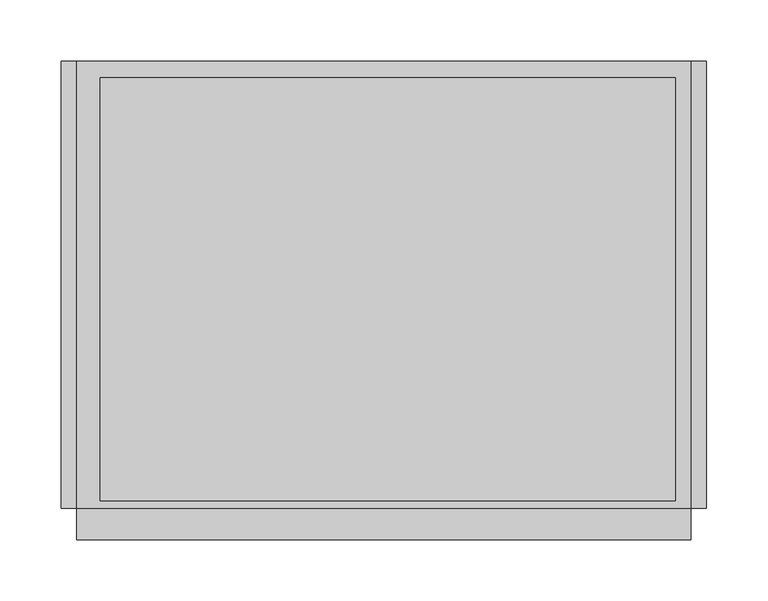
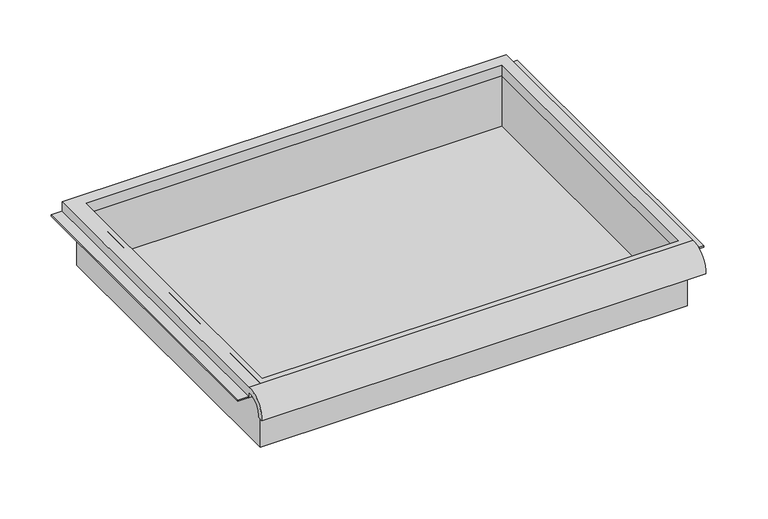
"""IFC4 building model written with IfcOpenShell, lengths in millimetres: furniture geometry."""

import ifcopenshell
import ifcopenshell.guid

model = None  # the IFC model being written
_history = None  # IfcOwnerHistory: only IFC2X3 demands one
_inside = {}  # id of a spatial element -> (the spatial element, [elements in it])
_under = {}  # id of a project, library or spatial element -> (it, [spatial elements below it])
_declared = {}  # id of a project -> (the project, [libraries it declares])
_typed = {}  # id of a type object -> (the type object, [elements of that type])
_made_of = {}  # id of a material, layer set ... -> (it, [elements and type objects made of it])


def new_model(schema):
    """Start an empty IFC model of exactly this schema.

    Asked for "IFC4X3", IfcOpenShell would pick the latest addendum, in which some entities
    have other attributes; the version numbers below select the first issue.
    IFC2X3 requires an IfcOwnerHistory on every rooted entity: one is made here for all.
    """
    global model, _history
    if schema == "IFC4X3":
        model = ifcopenshell.file(schema_version=(4, 3, 0, 0))
    else:
        model = ifcopenshell.file(schema=schema)
    _inside.clear()
    _under.clear()
    _declared.clear()
    _typed.clear()
    _made_of.clear()
    _history = None
    if model.schema == "IFC2X3":
        org = make("IfcOrganization", Name="unknown")
        user = make(
            "IfcPersonAndOrganization",
            ThePerson=make("IfcPerson", FamilyName="unknown"),
            TheOrganization=org,
        )
        app = make(
            "IfcApplication",
            ApplicationDeveloper=org,
            Version="unknown",
            ApplicationFullName="unknown",
            ApplicationIdentifier="unknown",
        )
        _history = make(
            "IfcOwnerHistory",
            OwningUser=user,
            OwningApplication=app,
            ChangeAction="ADDED",
            CreationDate=0,
        )
    return model


def make(cls, **values):
    """One entity of the class cls with the attributes given. An attribute that is None is left unset."""
    return model.create_entity(
        cls, **{name: value for name, value in values.items() if value is not None}
    )


def rooted(cls, **values):
    """An entity with a GlobalId (a new one), such as an element, a storey or a relation."""
    return make(cls, GlobalId=ifcopenshell.guid.new(), OwnerHistory=_history, **values)


def si_unit(unit_type, name, prefix=None):
    """IfcSIUnit, for example si_unit("LENGTHUNIT", "METRE", prefix="MILLI")."""
    return make("IfcSIUnit", UnitType=unit_type, Prefix=prefix, Name=name)


def assignment(units):
    """IfcUnitAssignment: the units of a project."""
    return None if units is None else make("IfcUnitAssignment", Units=units)


def point(xyz):
    """IfcCartesianPoint."""
    return None if xyz is None else make("IfcCartesianPoint", Coordinates=xyz)


def direction(xyz):
    """IfcDirection."""
    return None if xyz is None else make("IfcDirection", DirectionRatios=xyz)


def frame(location, z_axis=None, x_axis=None):
    """IfcAxis2Placement3D, a coordinate frame: its origin and axes. An axis left out is left unset."""
    return make(
        "IfcAxis2Placement3D",
        Location=point(location),
        Axis=direction(z_axis),
        RefDirection=direction(x_axis),
    )


def origin():
    """The frame at (0, 0, 0) with its axes left unset."""
    return frame((0.0, 0.0, 0.0))


def place(relative_to, where):
    """IfcLocalPlacement: puts the frame where relative to a parent placement (None: the world)."""
    return make(
        "IfcLocalPlacement", PlacementRelTo=relative_to, RelativePlacement=where
    )


def context(
    kind, dimensions, precision=None, world=None, true_north=None, identifier=None
):
    """IfcGeometricRepresentationContext, for example the 3D "Model" context."""
    return make(
        "IfcGeometricRepresentationContext",
        ContextIdentifier=identifier,
        ContextType=kind,
        CoordinateSpaceDimension=dimensions,
        Precision=precision,
        WorldCoordinateSystem=world,
        TrueNorth=true_north,
    )


def project(units=None, contexts=None):
    """IfcProject with its units and contexts."""
    return rooted(
        "IfcProject",
        Name="project",
        RepresentationContexts=contexts,
        UnitsInContext=assignment(units),
    )


def spatial(cls, under=None, at=None, **own):
    """A site, building, storey or space (cls), placed at a placement, below another one or the project."""
    s = rooted(cls, ObjectPlacement=at, **own)
    if under is not None:
        _under.setdefault(under.id(), (under, []))[1].append(s)
    return s


def polyline(points):
    """IfcPolyline through the points."""
    return make("IfcPolyline", Points=[point(p) for p in points])


def circle_curve(where, radius):
    """IfcCircle in the frame where."""
    return make("IfcCircle", Position=where, Radius=radius)


def faces_of(points, faces, orient=None, outer=None):
    """IfcFace entities. A face is a list of loops; a loop is a list of indices into points, from 0.

    orient and outer hold one flag for each loop. By default every Orientation is true, the
    first loop of a face is its IfcFaceOuterBound and the others are IfcFaceBound.
    """
    made = []
    for i, loops in enumerate(faces):
        bounds = []
        for j, loop in enumerate(loops):
            is_outer = j == 0 if outer is None else outer[i][j]
            bounds.append(
                make(
                    "IfcFaceOuterBound" if is_outer else "IfcFaceBound",
                    Bound=make("IfcPolyLoop", Polygon=[points[k] for k in loop]),
                    Orientation=True if orient is None else orient[i][j],
                )
            )
        made.append(make("IfcFace", Bounds=bounds))
    return made


def faceted_brep(points, faces, orient=None, outer=None, voids=None):
    """IfcFacetedBrep: a solid bounded by flat faces; with voids (closed shells), ...WithVoids."""
    shared = [point(p) for p in points]
    hull = make("IfcClosedShell", CfsFaces=faces_of(shared, faces, orient, outer))
    if voids is None:
        return make("IfcFacetedBrep", Outer=hull)
    return make(
        "IfcFacetedBrepWithVoids",
        Outer=hull,
        Voids=[
            make(cls, CfsFaces=faces_of(shared, fs, o, b)) for cls, fs, o, b in voids
        ],
    )


def shape(context_of_items, identifier, shape_type, items):
    """IfcShapeRepresentation: the items that make up one representation, for example the "Body"."""
    return make(
        "IfcShapeRepresentation",
        ContextOfItems=context_of_items,
        RepresentationIdentifier=identifier,
        RepresentationType=shape_type,
        Items=items,
    )


def source(mapping_origin, context_of_items, identifier, shape_type, items):
    """IfcRepresentationMap: a shape defined once, which mapped items show again and again."""
    return make(
        "IfcRepresentationMap",
        MappingOrigin=mapping_origin,
        MappedRepresentation=shape(context_of_items, identifier, shape_type, items),
    )


def transform(
    local_origin,
    x_axis=None,
    y_axis=None,
    z_axis=None,
    scale=None,
    scale2=None,
    scale3=None,
    uniform=True,
):
    """IfcCartesianTransformationOperator3D, or its non-uniform kind. x_axis, y_axis, z_axis: its Axis1, 2, 3."""
    if uniform:
        return make(
            "IfcCartesianTransformationOperator3D",
            Axis1=direction(x_axis),
            Axis2=direction(y_axis),
            LocalOrigin=point(local_origin),
            Scale=scale,
            Axis3=direction(z_axis),
        )
    return make(
        "IfcCartesianTransformationOperator3DnonUniform",
        Axis1=direction(x_axis),
        Axis2=direction(y_axis),
        LocalOrigin=point(local_origin),
        Scale=scale,
        Axis3=direction(z_axis),
        Scale2=scale2,
        Scale3=scale3,
    )


def mapped(mapping_source, mapping_target):
    """IfcMappedItem: shows the shape of a source again, moved by a transform."""
    return make(
        "IfcMappedItem", MappingSource=mapping_source, MappingTarget=mapping_target
    )


def made_of(thing, what):
    """Note that an element or type object is made of a material, layer set ...; save() writes the relation."""
    if what is not None:
        _made_of.setdefault(what.id(), (what, []))[1].append(thing)
    return thing


def element(
    cls,
    number,
    at=None,
    inside=None,
    cuts=None,
    type_object=None,
    material=None,
    context=None,
    identifier="Body",
    shape_type=None,
    held_by="IfcProductDefinitionShape",
    body=None,
    shapes=None,
    **own,
):
    """One element of the class cls, such as IfcWall. Its Tag is "e" and its number.

    at: its placement. inside: the storey or other place that contains it. cuts: it is an
    opening in that element (IfcRelVoidsElement). A single representation is given by context,
    identifier, shape_type and body (its items); several are given by shapes. held_by: the class
    of the entity that holds the representations. save() writes the other relations.
    """
    e = rooted(cls, Tag="e%d" % number, ObjectPlacement=at, **own)
    if body is not None:
        shapes = [shape(context, identifier, shape_type, body)]
    if shapes is not None:
        e.Representation = make(held_by, Representations=shapes)
    if inside is not None:
        _inside.setdefault(inside.id(), (inside, []))[1].append(e)
    if cuts is not None:
        rooted(
            "IfcRelVoidsElement", RelatingBuildingElement=cuts, RelatedOpeningElement=e
        )
    if type_object is not None:
        _typed.setdefault(type_object.id(), (type_object, []))[1].append(e)
    return made_of(e, material)


def aggregate(whole, parts):
    """IfcRelAggregates: a whole, such as a stair, and the parts it consists of."""
    return rooted("IfcRelAggregates", RelatingObject=whole, RelatedObjects=parts)


def save(model, path):
    """Write the relations noted so far, then the file.

    IfcRelAggregates (storeys below a building ...), IfcRelContainedInSpatialStructure (elements
    in a storey), IfcRelDefinesByType, IfcRelAssociatesMaterial and IfcRelDeclares: one each for
    every whole, place, type object, material and project.
    """
    for whole, parts in _under.values():
        aggregate(whole, parts)
    for where, things in _inside.values():
        rooted(
            "IfcRelContainedInSpatialStructure",
            RelatedElements=things,
            RelatingStructure=where,
        )
    for kind, things in _typed.values():
        rooted("IfcRelDefinesByType", RelatedObjects=things, RelatingType=kind)
    for what, things in _made_of.values():
        rooted("IfcRelAssociatesMaterial", RelatedObjects=things, RelatingMaterial=what)
    for by, libraries in _declared.values():
        rooted("IfcRelDeclares", RelatingContext=by, RelatedDefinitions=libraries)
    model.write(path)


def plane_surface(at):
    """IfcPlane: the flat surface through the origin of the frame at, square to its z axis."""
    return make("IfcPlane", Position=at)


def cylinder_surface(at, radius):
    """IfcCylindricalSurface: all points at the distance radius from the z axis of the frame at."""
    return make("IfcCylindricalSurface", Position=at, Radius=radius)


def revolved_surface(curve, axis_point, axis_direction):
    """IfcSurfaceOfRevolution: the curve turned about the line through axis_point along axis_direction."""
    return make(
        "IfcSurfaceOfRevolution",
        SweptCurve=make("IfcArbitraryOpenProfileDef", ProfileType="CURVE", Curve=curve),
        AxisPosition=make("IfcAxis1Placement", Location=point(axis_point), Axis=direction(axis_direction)),
    )


def advanced_brep(points, edges, surfaces, faces):
    """IfcAdvancedBrep: a solid bounded by faces that lie on surfaces and meet in shared edges.

    An edge is (start, end): straight between two places in points (the first is 0);
    or (start, end, curve); or (start, end, curve, False) where it runs against its curve.
    A face is (place in surfaces, loops), or (place, loops, False) where it looks against
    its surface's normal. A loop lists edges by number (the first is 1), with a minus sign
    where the edge is run from its end to its start. The first loop is the outer one.
    """
    corners = [point(p) for p in points]
    vertices = [make("IfcVertexPoint", VertexGeometry=c) for c in corners]
    made = []
    for start, end, *more in edges:
        made.append(
            make(
                "IfcEdgeCurve",
                EdgeStart=vertices[start],
                EdgeEnd=vertices[end],
                EdgeGeometry=more[0] if more else make("IfcPolyline", Points=[corners[start], corners[end]]),
                SameSense=more[1] if len(more) > 1 else True,
            )
        )
    hull = []
    for where, loops, *sense in faces:
        bounds = []
        for j, loop in enumerate(loops):
            ring = [make("IfcOrientedEdge", EdgeElement=made[abs(k) - 1], Orientation=k > 0) for k in loop]
            bounds.append(
                make(
                    "IfcFaceOuterBound" if j == 0 else "IfcFaceBound",
                    Bound=make("IfcEdgeLoop", EdgeList=ring),
                    Orientation=True,
                )
            )
        hull.append(make("IfcAdvancedFace", Bounds=bounds, FaceSurface=surfaces[where], SameSense=sense[0] if sense else True))
    return make("IfcAdvancedBrep", Outer=make("IfcClosedShell", CfsFaces=hull))


def furniture_30494bcf(model_context):
    return source(origin(), model_context, "Body", "SolidModel", [
        advanced_brep(
        [(263.7474999, -195.297482, 586.5824118), (263.7474999, -188.9125, 586.5824118), (263.7474999, -169.8625, 604.843885), (263.7474999, -169.8625, 598.4938846), (263.7474999, 195.2625, 598.4938846), (263.7474999, 195.2625, 611.193885), (263.7474999, -169.8625, 611.193885), (-237.9025001, -195.297482, 586.5824118), (-237.9025001, -169.8625, 611.193885), (-237.9025001, 195.2625, 611.193885), (-237.9025001, 195.2625, 598.4938846), (-237.9025001, -169.8625, 598.4938846), (-237.9025001, -169.8625, 604.843885), (-237.9025001, -188.9125, 586.5824118), (251.0474878, 181.9275, 598.4938846), (-218.8095642, 181.9275, 598.4938846), (-218.8095642, -163.5125, 598.4938846), (251.0474878, -163.5125, 598.4938846), (-218.8095642, 181.9275, 611.193885), (251.0474878, 181.9275, 611.193885), (251.0474878, -163.5125, 611.193885), (-218.8095642, -163.5125, 611.193885)],
        [
            (0, 1),
            (1, 2, circle_curve(frame((263.7474999, -172.3404634, 588.3618222), z_axis=(-1.0, 0.0, 0.0), x_axis=(0.0, 1.0, 0.0)), 16.6672942)),
            (2, 3),
            (3, 4),
            (4, 5),
            (5, 6),
            (6, 0, circle_curve(frame((263.7474999, -172.4601678, 588.4297122), z_axis=(1.0, 0.0, 0.0), x_axis=(0.0, 1.0, 0.0)), 22.9119061)),
            (7, 8, circle_curve(frame((-237.9025001, -172.4601678, 588.4297122), z_axis=(-1.0, 0.0, 0.0), x_axis=(0.0, 1.0, 0.0)), 22.9119061)),
            (8, 9),
            (9, 10),
            (10, 11),
            (11, 12),
            (12, 13, circle_curve(frame((-237.9025001, -172.3404634, 588.3618222), z_axis=(1.0, 0.0, 0.0), x_axis=(0.0, 1.0, 0.0)), 16.6672942)),
            (13, 7),
            (0, 7),
            (13, 1),
            (12, 2),
            (11, 3),
            (10, 4),
            (14, 15),
            (15, 16),
            (16, 17),
            (17, 14),
            (9, 5),
            (8, 6),
            (18, 19),
            (19, 20),
            (20, 21),
            (21, 18),
            (14, 19),
            (18, 15),
            (21, 16),
            (20, 17),
        ],
        [
            plane_surface(frame((263.7474999, -195.297482, 586.5824118), z_axis=(1.0, 0.0, 0.0), x_axis=(0.0, 1.0, 0.0))),
            plane_surface(frame((-237.9025001, -195.297482, 586.5824118), z_axis=(-1.0, 0.0, 0.0), x_axis=(0.0, -1.0, 0.0))),
            plane_surface(frame((263.7474999, -195.297482, 586.5824118), z_axis=(0.0, 0.0, -1.0), x_axis=(-1.0, 0.0, 0.0))),
            revolved_surface(polyline([(-237.9025001, -155.67316920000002, 588.3618222), (263.7474999, -155.67316920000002, 588.3618222)]), (-237.9025001, -172.3404634, 588.3618222), (-1.0, 0.0, 0.0)),
            plane_surface(frame((263.7474999, -169.8625, 604.843885), z_axis=(0.0, -1.0, 0.0), x_axis=(-1.0, 0.0, 0.0))),
            plane_surface(frame((263.7474999, -169.8625, 598.4938846), z_axis=(0.0, 0.0, -1.0), x_axis=(-1.0, 0.0, 0.0))),
            plane_surface(frame((263.7474999, 195.2625, 598.4938846), z_axis=(0.0, 1.0, 0.0), x_axis=(-1.0, 0.0, 0.0))),
            plane_surface(frame((263.7474999, 195.2625, 611.193885), z_axis=(0.0, 0.0, 1.0), x_axis=(-1.0, 0.0, 0.0))),
            cylinder_surface(frame((-237.9025001, -172.4601678, 588.4297122), z_axis=(1.0, 0.0, 0.0), x_axis=(0.0, 1.0, 0.0)), 22.9119061),
            plane_surface(frame((251.0474878, 181.9275, 611.193885), z_axis=(0.0, -1.0, 0.0), x_axis=(0.0, 0.0, -1.0))),
            plane_surface(frame((-218.8095642, 181.9275, 611.193885), z_axis=(1.0, 0.0, 0.0), x_axis=(0.0, 0.0, -1.0))),
            plane_surface(frame((-218.8095642, -163.5125, 611.193885), z_axis=(0.0, 1.0, 0.0), x_axis=(0.0, 0.0, -1.0))),
            plane_surface(frame((251.0474878, -163.5125, 611.193885), z_axis=(-1.0, 0.0, 0.0), x_axis=(0.0, 0.0, -1.0))),
        ],
        [
            (0, [[1, 2, 3, 4, 5, 6, 7]]),
            (1, [[8, 9, 10, 11, 12, 13, 14]]),
            (2, [[-1, 15, -14, 16]]),
            (3, [[-2, -16, -13, 17]]),
            (4, [[-3, -17, -12, 18]]),
            (5, [[-4, -18, -11, 19], [20, 21, 22, 23]]),
            (6, [[-5, -19, -10, 24]]),
            (7, [[-6, -24, -9, 25], [26, 27, 28, 29]]),
            (8, [[-7, -25, -8, -15]]),
            (9, [[30, -26, 31, -20]]),
            (10, [[-31, -29, 32, -21]]),
            (11, [[-32, -28, 33, -22]]),
            (12, [[-30, -23, -33, -27]]),
        ],
    ),
        faceted_brep([(-225.2025001, -169.8625, 534.993885), (257.3974878, -169.8625, 534.993885), (257.3974878, -169.8625, 611.193885), (-225.2025001, -169.8625, 611.193885), (-225.2025001, 188.9125, 534.993885), (-225.2025001, 188.9125, 611.193885), (257.3974878, 188.9125, 611.193885), (257.3974878, 188.9125, 534.993885), (-218.8095642, 181.9275, 611.193885), (251.0474878, 181.9275, 611.193885), (251.0474878, -163.5125, 611.193885), (-218.8095642, -163.5125, 611.193885), (251.0474878, 181.9275, 538.168885), (-218.8095642, 181.9275, 538.168885), (-218.8095642, -163.5125, 538.168885), (251.0474878, -163.5125, 538.168885)], [[[0, 1, 2, 3]], [[4, 5, 6, 7]], [[1, 0, 4, 7]], [[2, 1, 7, 6]], [[3, 2, 6, 5], [8, 9, 10, 11]], [[0, 3, 5, 4]], [[12, 13, 14, 15]], [[13, 12, 9, 8]], [[14, 13, 8, 11]], [[15, 14, 11, 10]], [[12, 15, 10, 9]]]),
        faceted_brep([(-250.6025001, 195.2625, 598.4938846), (-250.6025001, 195.2625, 600.0813846), (-231.5525001, 195.2625, 600.0813846), (-231.5525001, 195.2625, 598.4938846), (-250.6025001, -169.8625, 598.4938846), (-231.5525001, -169.8625, 598.4938846), (-231.5525001, -169.8625, 600.0813846), (-250.6025001, -169.8625, 600.0813846)], [[[0, 1, 2, 3]], [[4, 5, 6, 7]], [[1, 0, 4, 7]], [[2, 1, 7, 6]], [[3, 2, 6, 5]], [[0, 3, 5, 4]]]),
        faceted_brep([(276.4474999, 195.2625, 598.4938846), (263.7474999, 195.2625, 598.4938846), (263.7474999, 195.2625, 600.0813846), (276.4474999, 195.2625, 600.0813846), (276.4474999, -169.8625, 598.4938846), (276.4474999, -169.8625, 600.0813846), (263.7474999, -169.8625, 600.0813846), (263.7474999, -169.8625, 598.4938846)], [[[0, 1, 2, 3]], [[4, 5, 6, 7]], [[1, 0, 4, 7]], [[2, 1, 7, 6]], [[3, 2, 6, 5]], [[0, 3, 5, 4]]]),
    ])


if __name__ == "__main__":
    model = new_model("IFC4")
    model_context = context("Model", 3, world=origin())
    ifc_project = project(units=[si_unit("LENGTHUNIT", "METRE", prefix="MILLI")], contexts=[model_context])
    site = spatial("IfcSite", under=ifc_project)
    building = spatial("IfcBuilding", under=site)
    placement = place(None, origin())
    furniture_shape = furniture_30494bcf(model_context)
    element("IfcFurniture", 1, ObjectType="HermanMiller_Carts_CT501_Drawer : 3\"H x 15\"D x 20\"W", at=placement, inside=building, context=model_context, shape_type="MappedRepresentation", body=[
        mapped(furniture_shape, transform((0.0, 0.0, 0.0), x_axis=(1.0, 0.0, 0.0), y_axis=(0.0, 1.0, 0.0), z_axis=(0.0, 0.0, 1.0))),
    ])
    save(model, "model.ifc")
